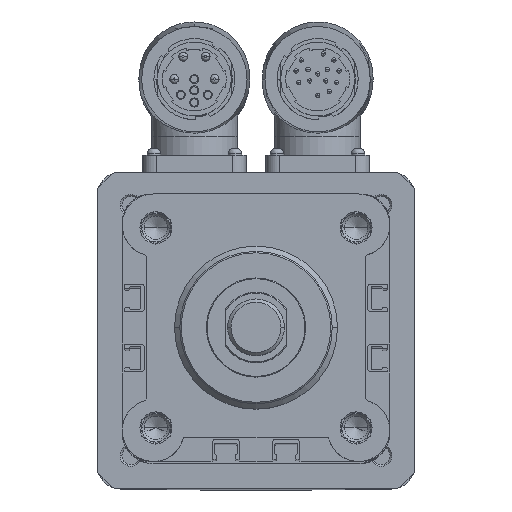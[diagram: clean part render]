
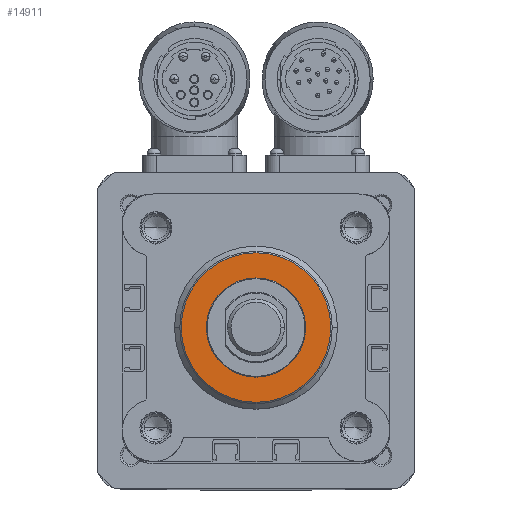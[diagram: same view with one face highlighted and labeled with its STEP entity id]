
A CAD part, top view. The second image highlights one B-rep face of the part: STEP entity #14911.
In plain terms, the highlighted planar face has unit normal (0, 0, 1).
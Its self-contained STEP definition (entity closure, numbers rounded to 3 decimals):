
#3973 = VERTEX_POINT ( 'NONE', #26887 ) ;
#3974 = VERTEX_POINT ( 'NONE', #26888 ) ;
#3977 = VERTEX_POINT ( 'NONE', #26891 ) ;
#3978 = VERTEX_POINT ( 'NONE', #26892 ) ;
#8663 = EDGE_CURVE ( 'NONE', #3973, #3974, #29259, .T. ) ;
#8667 = EDGE_CURVE ( 'NONE', #3977, #3978, #29261, .T. ) ;
#12429 = EDGE_LOOP ( 'NONE', ( #17719, #17721 ) ) ;
#12430 = EDGE_LOOP ( 'NONE', ( #17717, #17722 ) ) ;
#14911 = ADVANCED_FACE ( 'NONE', ( #45110, #45112 ), #50086, .T. ) ;
#15219 = EDGE_CURVE ( 'NONE', #3978, #3977, #29449, .T. ) ;
#15220 = EDGE_CURVE ( 'NONE', #3974, #3973, #29450, .T. ) ;
#17717 = ORIENTED_EDGE ( 'NONE', *, *, #15219, .T. ) ;
#17719 = ORIENTED_EDGE ( 'NONE', *, *, #15220, .T. ) ;
#17721 = ORIENTED_EDGE ( 'NONE', *, *, #8663, .T. ) ;
#17722 = ORIENTED_EDGE ( 'NONE', *, *, #8667, .T. ) ;
#26887 = CARTESIAN_POINT ( 'NONE',  ( 14., 0., 28. ) ) ;
#26888 = CARTESIAN_POINT ( 'NONE',  ( -14., 0., 28. ) ) ;
#26891 = CARTESIAN_POINT ( 'NONE',  ( 21.1, 0., 28. ) ) ;
#26892 = CARTESIAN_POINT ( 'NONE',  ( -21.1, 0., 28. ) ) ;
#29259 = CIRCLE ( 'NONE', #37671, 14. ) ;
#29261 = CIRCLE ( 'NONE', #37675, 21.1 ) ;
#29449 = CIRCLE ( 'NONE', #45483, 21.1 ) ;
#29450 = CIRCLE ( 'NONE', #45484, 14. ) ;
#37671 = AXIS2_PLACEMENT_3D ( 'NONE', #38622, #38629, #38630 ) ;
#37675 = AXIS2_PLACEMENT_3D ( 'NONE', #38634, #38641, #38642 ) ;
#38622 = CARTESIAN_POINT ( 'NONE',  ( 0., 0., 28. ) ) ;
#38629 = DIRECTION ( 'NONE',  ( 0., 0., -1. ) ) ;
#38630 = DIRECTION ( 'NONE',  ( -1., 0., 0. ) ) ;
#38634 = CARTESIAN_POINT ( 'NONE',  ( 0., 0., 28. ) ) ;
#38641 = DIRECTION ( 'NONE',  ( 0., 0., 1. ) ) ;
#38642 = DIRECTION ( 'NONE',  ( -1., 0., 0. ) ) ;
#45110 = FACE_BOUND ( 'NONE', #12429, .T. ) ;
#45112 = FACE_OUTER_BOUND ( 'NONE', #12430, .T. ) ;
#45115 = AXIS2_PLACEMENT_3D ( 'NONE', #50087, #50088, #50089 ) ;
#45483 = AXIS2_PLACEMENT_3D ( 'NONE', #52188, #52189, #52190 ) ;
#45484 = AXIS2_PLACEMENT_3D ( 'NONE', #52191, #52192, #52193 ) ;
#50086 = PLANE ( 'NONE',  #45115 ) ;
#50087 = CARTESIAN_POINT ( 'NONE',  ( 0., 10.55, 28. ) ) ;
#50088 = DIRECTION ( 'NONE',  ( 0., 0., 1. ) ) ;
#50089 = DIRECTION ( 'NONE',  ( 1., 0., 0. ) ) ;
#52188 = CARTESIAN_POINT ( 'NONE',  ( 0., 0., 28. ) ) ;
#52189 = DIRECTION ( 'NONE',  ( 0., 0., 1. ) ) ;
#52190 = DIRECTION ( 'NONE',  ( -1., 0., 0. ) ) ;
#52191 = CARTESIAN_POINT ( 'NONE',  ( 0., 0., 28. ) ) ;
#52192 = DIRECTION ( 'NONE',  ( 0., 0., -1. ) ) ;
#52193 = DIRECTION ( 'NONE',  ( -1., 0., 0. ) ) ;
